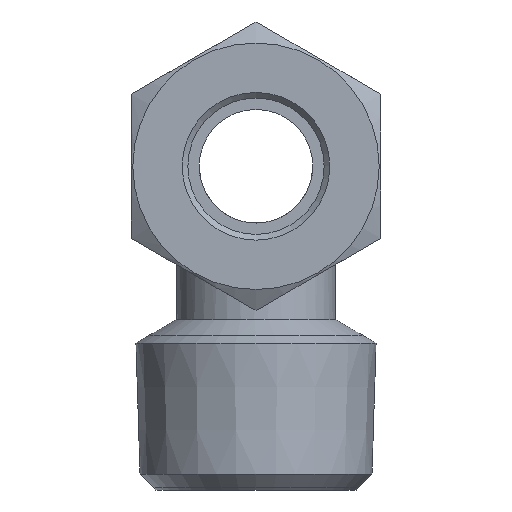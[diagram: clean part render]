
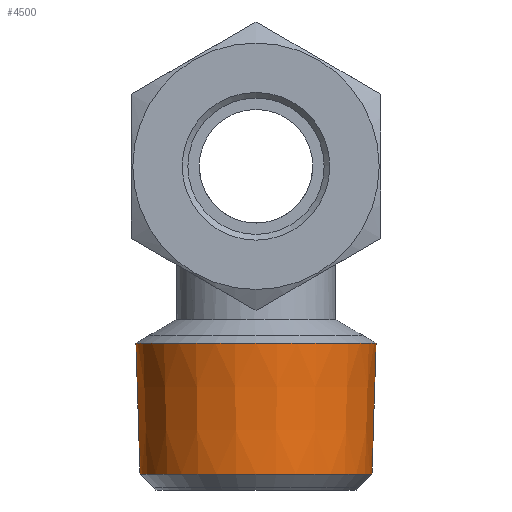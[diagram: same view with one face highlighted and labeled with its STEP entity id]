
A CAD part, left-side view. The second image highlights one B-rep face of the part: STEP entity #4500.
In plain terms, the highlighted conical face has half-angle 1.79 degrees and reference radius 10.569 mm.
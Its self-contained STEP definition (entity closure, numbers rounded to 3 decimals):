
#4500=ADVANCED_FACE('', (#4510,#4520), #4530, .T.);
#13710=AXIS2_PLACEMENT_3D('Ax2Pl3d', #13720, #13730, #13740);
#13830=AXIS2_PLACEMENT_3D('Ax2Pl3d', #13840, #13850, #13860);
#13910=AXIS2_PLACEMENT_3D('Ax2Pl3d', #13920, #13930, #13940);
#13720=CARTESIAN_POINT('HicPkt', (39.805,14.923,6.828))
;
#44770=CARTESIAN_POINT('', (39.805,4.714,6.828));
#13840=CARTESIAN_POINT('HicPkt', (39.805,14.923,18.367))
;
#44790=CARTESIAN_POINT('', (39.805,4.353,18.367));
#13920=CARTESIAN_POINT('HicPkt', (39.805,14.923,18.367))
;
#45670=CIRCLE('Circle', #13710, 10.209);
#45690=CIRCLE('Circle', #13830, 10.569);
#4530=CONICAL_SURFACE('Kegel', #13910, 10.569, 
0.031);
#13730=DIRECTION('Axis', (0.,0.,-1.));
#13740=DIRECTION('RefDirection', (-1.,-0.,0.));
#13850=DIRECTION('Axis', (0.,0.,1.));
#13860=DIRECTION('RefDirection', (1.,0.,-0.));
#13930=DIRECTION('Axis', (0.,0.,1.));
#13940=DIRECTION('RefDirection', (1.,0.,-0.));
#57100=EDGE_CURVE('', #57110, #57110, #45670, .T.);
#57140=EDGE_CURVE('', #57150, #57150, #45690, .T.);
#63160=EDGE_LOOP('Edge_loop', (#63170));
#63180=EDGE_LOOP('Edge_loop', (#63190));
#4520=FACE_BOUND('', #63180, .T.);
#4510=FACE_OUTER_BOUND('Face_outer_bound', #63160, .T.);
#63170=ORIENTED_EDGE('', *, *, #57100, .F.);
#63190=ORIENTED_EDGE('', *, *, #57140, .F.);
#57110=VERTEX_POINT('', #44770);
#57150=VERTEX_POINT('', #44790);
